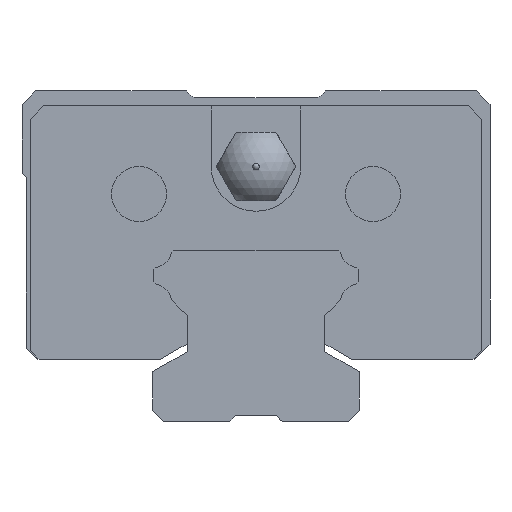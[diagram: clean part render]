
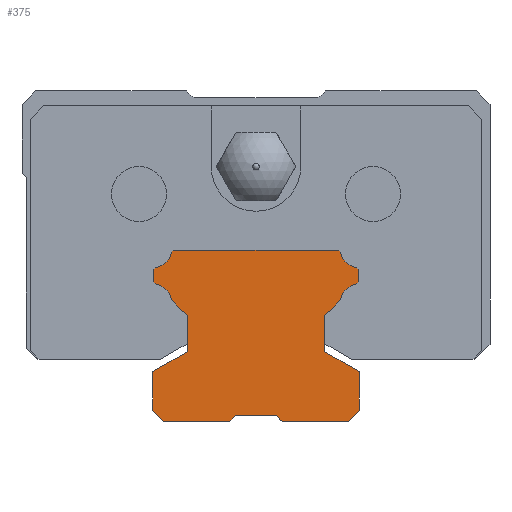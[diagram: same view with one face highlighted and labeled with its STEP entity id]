
A CAD part, front view. The second image highlights one B-rep face of the part: STEP entity #375.
In plain terms, the highlighted planar face has unit normal (0, -1, 0).
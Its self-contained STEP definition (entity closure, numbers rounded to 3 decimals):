
#250=PLANE('',#2681);
#375=ADVANCED_FACE('',(#526),#250,.T.);
#526=FACE_OUTER_BOUND('',#676,.T.);
#676=EDGE_LOOP('',(#1788,#1789,#1790,#1791,#1792,#1793,#1794,#1795,#1796,
#1797,#1798,#1799,#1800,#1801,#1802,#1803,#1804,#1805,#1806,#1807,#1808,
#1809,#1810,#1811,#1812,#1813,#1814,#1815));
#870=LINE('',#3809,#1128);
#880=LINE('',#3842,#1138);
#885=LINE('',#3857,#1143);
#888=LINE('',#3863,#1146);
#891=LINE('',#3869,#1149);
#894=LINE('',#3878,#1152);
#897=LINE('',#3884,#1155);
#900=LINE('',#3890,#1158);
#903=LINE('',#3896,#1161);
#906=LINE('',#3902,#1164);
#910=LINE('',#3914,#1168);
#913=LINE('',#3921,#1171);
#916=LINE('',#3928,#1174);
#917=LINE('',#3932,#1175);
#920=LINE('',#3938,#1178);
#923=LINE('',#3944,#1181);
#926=LINE('',#3950,#1184);
#929=LINE('',#3956,#1187);
#934=LINE('',#3966,#1192);
#936=LINE('',#3974,#1194);
#939=LINE('',#3980,#1197);
#942=LINE('',#3986,#1200);
#946=LINE('',#3998,#1204);
#949=LINE('',#4010,#1207);
#1128=VECTOR('',#3116,1.);
#1138=VECTOR('',#3144,1.);
#1143=VECTOR('',#3157,1.);
#1146=VECTOR('',#3162,1.);
#1149=VECTOR('',#3167,1.);
#1152=VECTOR('',#3178,1.);
#1155=VECTOR('',#3183,1.);
#1158=VECTOR('',#3188,1.);
#1161=VECTOR('',#3193,1.);
#1164=VECTOR('',#3198,1.);
#1168=VECTOR('',#3210,1.);
#1171=VECTOR('',#3217,1.);
#1174=VECTOR('',#3224,1.);
#1175=VECTOR('',#3231,1.);
#1178=VECTOR('',#3236,1.);
#1181=VECTOR('',#3241,1.);
#1184=VECTOR('',#3246,1.);
#1187=VECTOR('',#3251,1.);
#1192=VECTOR('',#3258,1.);
#1194=VECTOR('',#3268,1.);
#1197=VECTOR('',#3273,1.);
#1200=VECTOR('',#3278,1.);
#1204=VECTOR('',#3290,1.);
#1207=VECTOR('',#3301,1.);
#1788=ORIENTED_EDGE('',*,*,#2312,.F.);
#1789=ORIENTED_EDGE('',*,*,#2345,.T.);
#1790=ORIENTED_EDGE('',*,*,#2348,.T.);
#1791=ORIENTED_EDGE('',*,*,#2351,.T.);
#1792=ORIENTED_EDGE('',*,*,#2354,.T.);
#1793=ORIENTED_EDGE('',*,*,#2357,.T.);
#1794=ORIENTED_EDGE('',*,*,#2364,.F.);
#1795=ORIENTED_EDGE('',*,*,#2368,.T.);
#1796=ORIENTED_EDGE('',*,*,#2372,.T.);
#1797=ORIENTED_EDGE('',*,*,#2375,.T.);
#1798=ORIENTED_EDGE('',*,*,#2378,.T.);
#1799=ORIENTED_EDGE('',*,*,#2381,.F.);
#1800=ORIENTED_EDGE('',*,*,#2384,.F.);
#1801=ORIENTED_EDGE('',*,*,#2387,.F.);
#1802=ORIENTED_EDGE('',*,*,#2392,.T.);
#1803=ORIENTED_EDGE('',*,*,#2393,.F.);
#1804=ORIENTED_EDGE('',*,*,#2396,.T.);
#1805=ORIENTED_EDGE('',*,*,#2399,.F.);
#1806=ORIENTED_EDGE('',*,*,#2402,.F.);
#1807=ORIENTED_EDGE('',*,*,#2405,.F.);
#1808=ORIENTED_EDGE('',*,*,#2408,.F.);
#1809=ORIENTED_EDGE('',*,*,#2414,.F.);
#1810=ORIENTED_EDGE('',*,*,#2327,.T.);
#1811=ORIENTED_EDGE('',*,*,#2331,.F.);
#1812=ORIENTED_EDGE('',*,*,#2334,.T.);
#1813=ORIENTED_EDGE('',*,*,#2337,.T.);
#1814=ORIENTED_EDGE('',*,*,#2340,.F.);
#1815=ORIENTED_EDGE('',*,*,#2343,.F.);
#2021=VERTEX_POINT('',#3807);
#2023=VERTEX_POINT('',#3810);
#2037=VERTEX_POINT('',#3843);
#2038=VERTEX_POINT('',#3844);
#2041=VERTEX_POINT('',#3852);
#2043=VERTEX_POINT('',#3858);
#2045=VERTEX_POINT('',#3864);
#2047=VERTEX_POINT('',#3870);
#2049=VERTEX_POINT('',#3879);
#2051=VERTEX_POINT('',#3885);
#2053=VERTEX_POINT('',#3891);
#2055=VERTEX_POINT('',#3897);
#2057=VERTEX_POINT('',#3903);
#2060=VERTEX_POINT('',#3913);
#2062=VERTEX_POINT('',#3920);
#2064=VERTEX_POINT('',#3927);
#2065=VERTEX_POINT('',#3933);
#2067=VERTEX_POINT('',#3939);
#2069=VERTEX_POINT('',#3945);
#2071=VERTEX_POINT('',#3951);
#2073=VERTEX_POINT('',#3957);
#2076=VERTEX_POINT('',#3965);
#2077=VERTEX_POINT('',#3969);
#2079=VERTEX_POINT('',#3975);
#2081=VERTEX_POINT('',#3981);
#2083=VERTEX_POINT('',#3987);
#2085=VERTEX_POINT('',#3993);
#2087=VERTEX_POINT('',#3999);
#2312=EDGE_CURVE('',#2021,#2023,#870,.T.);
#2327=EDGE_CURVE('',#2037,#2038,#880,.T.);
#2331=EDGE_CURVE('',#2041,#2038,#2482,.T.);
#2334=EDGE_CURVE('',#2041,#2043,#885,.T.);
#2337=EDGE_CURVE('',#2043,#2045,#888,.T.);
#2340=EDGE_CURVE('',#2047,#2045,#891,.T.);
#2343=EDGE_CURVE('',#2023,#2047,#2484,.T.);
#2345=EDGE_CURVE('',#2021,#2049,#894,.T.);
#2348=EDGE_CURVE('',#2049,#2051,#897,.T.);
#2351=EDGE_CURVE('',#2051,#2053,#900,.T.);
#2354=EDGE_CURVE('',#2053,#2055,#903,.T.);
#2357=EDGE_CURVE('',#2055,#2057,#906,.T.);
#2364=EDGE_CURVE('',#2060,#2057,#910,.T.);
#2368=EDGE_CURVE('',#2060,#2062,#913,.T.);
#2372=EDGE_CURVE('',#2062,#2064,#916,.T.);
#2375=EDGE_CURVE('',#2064,#2065,#917,.T.);
#2378=EDGE_CURVE('',#2065,#2067,#920,.T.);
#2381=EDGE_CURVE('',#2069,#2067,#923,.T.);
#2384=EDGE_CURVE('',#2071,#2069,#926,.T.);
#2387=EDGE_CURVE('',#2073,#2071,#929,.T.);
#2392=EDGE_CURVE('',#2073,#2076,#934,.T.);
#2393=EDGE_CURVE('',#2077,#2076,#2487,.T.);
#2396=EDGE_CURVE('',#2077,#2079,#936,.T.);
#2399=EDGE_CURVE('',#2081,#2079,#939,.T.);
#2402=EDGE_CURVE('',#2083,#2081,#942,.T.);
#2405=EDGE_CURVE('',#2085,#2083,#2489,.T.);
#2408=EDGE_CURVE('',#2087,#2085,#946,.T.);
#2414=EDGE_CURVE('',#2037,#2087,#949,.T.);
#2482=CIRCLE('',#2636,1.55);
#2484=CIRCLE('',#2642,1.55);
#2487=CIRCLE('',#2666,1.55);
#2489=CIRCLE('',#2672,1.55);
#2636=AXIS2_PLACEMENT_3D('',#3851,#3150,#3151);
#2642=AXIS2_PLACEMENT_3D('',#3875,#3172,#3173);
#2666=AXIS2_PLACEMENT_3D('',#3968,#3261,#3262);
#2672=AXIS2_PLACEMENT_3D('',#3992,#3283,#3284);
#2681=AXIS2_PLACEMENT_3D('',#4014,#3307,#3308);
#3116=DIRECTION('',(-0.707,0.,0.707));
#3144=DIRECTION('',(-0.707,0.,-0.707));
#3150=DIRECTION('',(0.,-1.,0.));
#3151=DIRECTION('',(1.,0.,0.));
#3157=DIRECTION('',(-0.707,0.,-0.707));
#3162=DIRECTION('',(0.,0.,-1.));
#3167=DIRECTION('',(-0.707,0.,0.707));
#3172=DIRECTION('',(0.,-1.,0.));
#3173=DIRECTION('',(1.,0.,0.));
#3178=DIRECTION('',(0.,0.,-1.));
#3183=DIRECTION('',(-0.866,0.,-0.5));
#3188=DIRECTION('',(0.,0.,-1.));
#3193=DIRECTION('',(0.707,0.,-0.707));
#3198=DIRECTION('',(1.,0.,0.));
#3210=DIRECTION('',(-0.707,0.,-0.707));
#3217=DIRECTION('',(1.,0.,0.));
#3224=DIRECTION('',(0.707,0.,-0.707));
#3231=DIRECTION('',(1.,0.,0.));
#3236=DIRECTION('',(0.707,0.,0.707));
#3241=DIRECTION('',(0.,0.,-1.));
#3246=DIRECTION('',(0.866,0.,-0.5));
#3251=DIRECTION('',(0.,0.,-1.));
#3258=DIRECTION('',(0.707,0.,0.707));
#3261=DIRECTION('',(0.,-1.,0.));
#3262=DIRECTION('',(1.,0.,0.));
#3268=DIRECTION('',(0.707,0.,0.707));
#3273=DIRECTION('',(0.,0.,-1.));
#3278=DIRECTION('',(0.707,0.,-0.707));
#3283=DIRECTION('',(0.,-1.,0.));
#3284=DIRECTION('',(1.,0.,0.));
#3290=DIRECTION('',(0.707,0.,-0.707));
#3301=DIRECTION('',(1.,0.,0.));
#3307=DIRECTION('',(0.,-1.,0.));
#3308=DIRECTION('',(0.,0.,-1.));
#3807=CARTESIAN_POINT('',(-5.,-80.,7.284));
#3809=CARTESIAN_POINT('',(-4.93,-80.,7.214));
#3810=CARTESIAN_POINT('',(-6.131,-80.,8.415));
#3842=CARTESIAN_POINT('',(-5.986,-80.,12.03));
#3843=CARTESIAN_POINT('',(-5.986,-80.,12.03));
#3844=CARTESIAN_POINT('',(-6.131,-80.,11.885));
#3851=CARTESIAN_POINT('',(-7.64,-80.,12.24));
#3852=CARTESIAN_POINT('',(-7.285,-80.,10.731));
#3857=CARTESIAN_POINT('',(-7.285,-80.,10.731));
#3858=CARTESIAN_POINT('',(-7.43,-80.,10.586));
#3863=CARTESIAN_POINT('',(-7.43,-80.,10.586));
#3864=CARTESIAN_POINT('',(-7.43,-80.,9.714));
#3869=CARTESIAN_POINT('',(-7.285,-80.,9.569));
#3870=CARTESIAN_POINT('',(-7.285,-80.,9.569));
#3875=CARTESIAN_POINT('',(-7.64,-80.,8.06));
#3878=CARTESIAN_POINT('',(-5.,-80.,5.221));
#3879=CARTESIAN_POINT('',(-5.,-80.,4.643));
#3884=CARTESIAN_POINT('',(-5.,-80.,4.643));
#3885=CARTESIAN_POINT('',(-7.5,-80.,3.2));
#3890=CARTESIAN_POINT('',(-7.5,-80.,3.2));
#3891=CARTESIAN_POINT('',(-7.5,-80.,0.4));
#3896=CARTESIAN_POINT('',(-7.5,-80.,0.4));
#3897=CARTESIAN_POINT('',(-6.7,-80.,-0.4));
#3902=CARTESIAN_POINT('',(-6.7,-80.,-0.4));
#3903=CARTESIAN_POINT('',(-1.9,-80.,-0.4));
#3913=CARTESIAN_POINT('',(-1.5,-80.,0.));
#3914=CARTESIAN_POINT('',(-1.5,-80.,0.));
#3920=CARTESIAN_POINT('',(1.5,-80.,0.));
#3921=CARTESIAN_POINT('',(-1.5,-80.,0.));
#3927=CARTESIAN_POINT('',(1.9,-80.,-0.4));
#3928=CARTESIAN_POINT('',(1.5,-80.,0.));
#3932=CARTESIAN_POINT('',(1.9,-80.,-0.4));
#3933=CARTESIAN_POINT('',(6.7,-80.,-0.4));
#3938=CARTESIAN_POINT('',(6.7,-80.,-0.4));
#3939=CARTESIAN_POINT('',(7.5,-80.,0.4));
#3944=CARTESIAN_POINT('',(7.5,-80.,3.2));
#3945=CARTESIAN_POINT('',(7.5,-80.,3.2));
#3950=CARTESIAN_POINT('',(5.,-80.,4.643));
#3951=CARTESIAN_POINT('',(5.,-80.,4.643));
#3956=CARTESIAN_POINT('',(5.,-80.,5.221));
#3957=CARTESIAN_POINT('',(5.,-80.,7.284));
#3965=CARTESIAN_POINT('',(6.131,-80.,8.415));
#3966=CARTESIAN_POINT('',(4.93,-80.,7.214));
#3968=CARTESIAN_POINT('',(7.64,-80.,8.06));
#3969=CARTESIAN_POINT('',(7.285,-80.,9.569));
#3974=CARTESIAN_POINT('',(7.285,-80.,9.569));
#3975=CARTESIAN_POINT('',(7.43,-80.,9.714));
#3980=CARTESIAN_POINT('',(7.43,-80.,10.586));
#3981=CARTESIAN_POINT('',(7.43,-80.,10.586));
#3986=CARTESIAN_POINT('',(7.285,-80.,10.731));
#3987=CARTESIAN_POINT('',(7.285,-80.,10.731));
#3992=CARTESIAN_POINT('',(7.64,-80.,12.24));
#3993=CARTESIAN_POINT('',(6.131,-80.,11.885));
#3998=CARTESIAN_POINT('',(5.986,-80.,12.03));
#3999=CARTESIAN_POINT('',(5.986,-80.,12.03));
#4010=CARTESIAN_POINT('',(-5.986,-80.,12.03));
#4014=CARTESIAN_POINT('',(-7.64,-80.,12.24));
